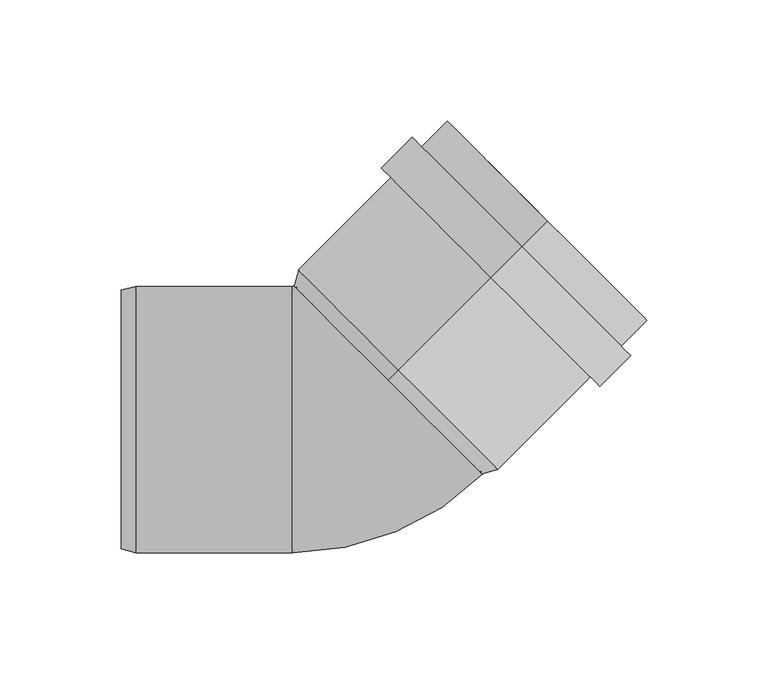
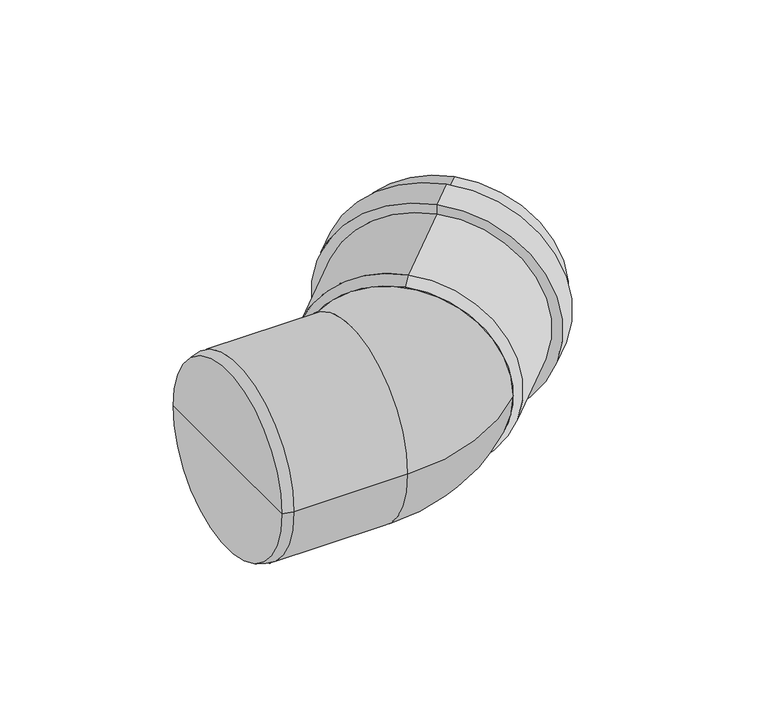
"""IFC4 building model written with IfcOpenShell, lengths in millimetres: pipe fitting geometry, OSMA_KG2000_PPKGB : Koleno 45°."""

from ifc_helpers import new_model, si_unit, point, frame, origin, place, context, project, spatial, polyline, circle_curve, ellipse_curve, trimmed, source, transform, mapped, element, save
from ifc_brep_helpers import plane_surface, cylinder_surface, revolved_surface, advanced_brep


def pipe_fitting_c65eb248(model_context):
    return source(origin(), model_context, "Body", "AdvancedBrep", [
        advanced_brep(
        [(20.5060967, 20.5060967, 55.0), (20.5060967, 20.5060967, -55.0), (82.0243866, 82.0243866, -55.0), (82.0243866, 82.0243866, 55.0), (58.6898628, 58.6898628, 58.4), (58.6898628, 58.6898628, -58.4), (20.5060967, 20.5060967, -58.4), (20.5060967, 20.5060967, 58.4), (58.6898628, 58.6898628, 64.0), (58.6898628, 58.6898628, -64.0), (71.4177849, 71.4177849, 64.0), (71.4177849, 71.4177849, -64.0), (71.4177849, 71.4177849, 58.4), (71.4177849, 71.4177849, -58.4), (82.0243866, 82.0243866, 58.4), (82.0243866, 82.0243866, -58.4), (16.263456, 16.263456, 51.6), (16.263456, 16.263456, -51.6), (16.263456, 16.263456, 55.0), (16.263456, 16.263456, -55.0)],
        [
            (0, 1, circle_curve(frame((20.5060967, 20.5060967, 0.0), z_axis=(-0.7071067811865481, -0.707106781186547, 0.0), x_axis=(0.0, 0.0, -1.0000000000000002)), 55.0)),
            (1, 2),
            (2, 3, circle_curve(frame((82.0243866, 82.0243866, 0.0), z_axis=(0.7071067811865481, 0.707106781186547, 0.0), x_axis=(0.0, 0.0, -1.0000000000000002)), 55.0)),
            (3, 0),
            (1, 0, circle_curve(frame((20.5060967, 20.5060967, 0.0), z_axis=(-0.7071067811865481, -0.707106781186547, 0.0), x_axis=(0.0, 0.0, -1.0000000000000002)), 55.0)),
            (3, 2, circle_curve(frame((82.0243866, 82.0243866, 0.0), z_axis=(0.7071067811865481, 0.707106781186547, 0.0), x_axis=(0.0, 0.0, -1.0000000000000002)), 55.0)),
            (4, 5, circle_curve(frame((58.6898628, 58.6898628, 0.0), z_axis=(-0.7071067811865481, -0.707106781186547, 0.0), x_axis=(0.0, 0.0, -1.0000000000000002)), 58.4)),
            (5, 6),
            (6, 7, circle_curve(frame((20.5060967, 20.5060967, 0.0), z_axis=(0.7071067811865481, 0.707106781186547, 0.0), x_axis=(0.0, 0.0, -1.0000000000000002)), 58.4)),
            (7, 4),
            (5, 4, circle_curve(frame((58.6898628, 58.6898628, 0.0), z_axis=(-0.7071067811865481, -0.707106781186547, 0.0), x_axis=(0.0, 0.0, -1.0000000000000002)), 58.4)),
            (7, 6, circle_curve(frame((20.5060967, 20.5060967, 0.0), z_axis=(0.7071067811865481, 0.707106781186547, 0.0), x_axis=(0.0, 0.0, -1.0000000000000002)), 58.4)),
            (8, 9, circle_curve(frame((58.6898628, 58.6898628, 0.0), z_axis=(-0.7071067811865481, -0.707106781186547, 0.0), x_axis=(0.0, 0.0, -1.0000000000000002)), 64.0)),
            (9, 5),
            (4, 8),
            (9, 8, circle_curve(frame((58.6898628, 58.6898628, 0.0), z_axis=(-0.7071067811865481, -0.707106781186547, 0.0), x_axis=(0.0, 0.0, -1.0000000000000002)), 64.0)),
            (10, 11, circle_curve(frame((71.4177849, 71.4177849, 0.0), z_axis=(-0.7071067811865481, -0.707106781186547, 0.0), x_axis=(0.0, 0.0, -1.0000000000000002)), 64.0)),
            (11, 9),
            (8, 10),
            (11, 10, circle_curve(frame((71.4177849, 71.4177849, 0.0), z_axis=(-0.7071067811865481, -0.707106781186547, 0.0), x_axis=(0.0, 0.0, -1.0000000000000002)), 64.0)),
            (12, 13, circle_curve(frame((71.4177849, 71.4177849, 0.0), z_axis=(-0.7071067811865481, -0.707106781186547, 0.0), x_axis=(0.0, 0.0, -1.0000000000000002)), 58.4)),
            (13, 11),
            (10, 12),
            (13, 12, circle_curve(frame((71.4177849, 71.4177849, 0.0), z_axis=(-0.7071067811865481, -0.707106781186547, 0.0), x_axis=(0.0, 0.0, -1.0000000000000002)), 58.4)),
            (14, 15, circle_curve(frame((82.0243866, 82.0243866, 0.0), z_axis=(-0.7071067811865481, -0.707106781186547, 0.0), x_axis=(0.0, 0.0, -1.0000000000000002)), 58.4)),
            (15, 13),
            (12, 14),
            (15, 14, circle_curve(frame((82.0243866, 82.0243866, 0.0), z_axis=(-0.7071067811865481, -0.707106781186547, 0.0), x_axis=(0.0, 0.0, -1.0000000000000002)), 58.4)),
            (2, 15),
            (14, 3),
            (16, 17, circle_curve(frame((16.263456, 16.263456, 0.0), z_axis=(-0.7071067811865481, -0.707106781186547, 0.0), x_axis=(0.0, 0.0, -1.0000000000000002)), 51.6)),
            (17, 1),
            (0, 16),
            (17, 16, circle_curve(frame((16.263456, 16.263456, 0.0), z_axis=(-0.7071067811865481, -0.707106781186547, 0.0), x_axis=(0.0, 0.0, -1.0000000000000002)), 51.6)),
            (18, 19, circle_curve(frame((16.263456, 16.263456, 0.0), z_axis=(-0.7071067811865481, -0.707106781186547, 0.0), x_axis=(0.0, 0.0, -1.0000000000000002)), 55.0)),
            (19, 17),
            (16, 18),
            (19, 18, circle_curve(frame((16.263456, 16.263456, 0.0), z_axis=(-0.7071067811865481, -0.707106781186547, 0.0), x_axis=(0.0, 0.0, -1.0000000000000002)), 55.0)),
            (6, 19),
            (18, 7),
        ],
        [
            revolved_surface(polyline([(82.02438659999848, 82.02438660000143, -55.000000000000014), (20.506096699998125, 20.50609670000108, -55.000000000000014)]), (1969.6277097, 1969.6277097, 0.0), (0.7071067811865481, 0.707106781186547, 0.0)),
            cylinder_surface(frame((1969.6277097, 1969.6277097, 0.0), z_axis=(0.7071067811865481, 0.707106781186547, 0.0), x_axis=(0.0, 0.0, -1.0000000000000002)), 58.4),
            plane_surface(frame((58.6898628, 58.6898628, 0.0), z_axis=(-0.7071067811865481, -0.707106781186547, 0.0), x_axis=(0.0, 0.0, -1.0))),
            cylinder_surface(frame((1969.6277097, 1969.6277097, 0.0), z_axis=(0.7071067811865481, 0.707106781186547, 0.0), x_axis=(0.0, 0.0, -1.0000000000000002)), 64.0),
            plane_surface(frame((71.4177849, 71.4177849, 0.0), z_axis=(0.7071067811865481, 0.707106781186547, 0.0), x_axis=(0.0, 0.0, -1.0))),
            plane_surface(frame((82.0243866, 82.0243866, 0.0), z_axis=(0.7071067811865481, 0.707106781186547, 0.0), x_axis=(0.0, 0.0, -1.0))),
            revolved_surface(polyline([(20.5060967, 20.5060967, -55.0), (16.263456, 16.263456, -51.6)]), (1969.6277097, 1969.6277097, 0.0), (0.7071067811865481, 0.707106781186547, 0.0)),
            plane_surface(frame((16.263456, 16.263456, 0.0), z_axis=(-0.7071067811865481, -0.707106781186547, 0.0), x_axis=(0.0, 0.0, -1.0))),
            revolved_surface(polyline([(16.263456, 16.263456, -55.0), (20.5060967, 20.5060967, -58.4)]), (1969.6277097, 1969.6277097, 0.0), (0.7071067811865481, 0.707106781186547, 0.0)),
        ],
        [
            (0, [[1, 2, 3, 4]]),
            (0, [[5, -4, 6, -2]]),
            (1, [[7, 8, 9, 10]]),
            (1, [[11, -10, 12, -8]]),
            (2, [[13, 14, -7, 15]]),
            (2, [[16, -15, -11, -14]]),
            (3, [[17, 18, -13, 19]]),
            (3, [[20, -19, -16, -18]]),
            (4, [[21, 22, -17, 23]]),
            (4, [[24, -23, -20, -22]]),
            (1, [[25, 26, -21, 27]]),
            (1, [[28, -27, -24, -26]]),
            (5, [[-3, 29, -25, 30]]),
            (5, [[-6, -30, -28, -29]]),
            (6, [[31, 32, -1, 33]]),
            (6, [[34, -33, -5, -32]]),
            (7, [[35, 36, -31, 37]]),
            (7, [[38, -37, -34, -36]]),
            (8, [[-9, 39, -35, 40]]),
            (8, [[-12, -40, -38, -39]]),
        ],
    ),
        advanced_brep(
        [(-22.3424061, 55.4393398, 0.0), (-23.4030663, 55.0, 0.0), (-23.4030663, -55.0, 0.0), (55.4393398, -22.3424061, 0.0), (16.5484669, 16.5484669, 55.0), (16.5484669, 16.5484669, -55.0), (-94.0, 0.0, 0.0), (-94.0, 53.3923048, 0.0), (-94.0, -53.3923048, 0.0), (-88.0, 55.0, 0.0), (-88.0, -55.0, 0.0), (59.3969696, -18.3847763, 0.0), (-18.3847763, 59.3969696, 0.0)],
        [
            (0, 1, circle_curve(frame((-23.4030663, 56.5, 0.0), z_axis=(0.0, 0.0, -1.0), x_axis=(0.0, -1.0, 0.0)), 1.5)),
            (1, 2, circle_curve(frame((-23.4030663, 0.0, 0.0), z_axis=(1.0, 0.0, 0.0), x_axis=(0.0, 1.0, 0.0)), 55.0)),
            (2, 3, circle_curve(frame((-23.4030663, 56.5, 0.0), z_axis=(0.0, 0.0, 1.0), x_axis=(0.0, -1.0, 0.0)), 111.5)),
            (3, 4, circle_curve(frame((16.5484669, 16.5484669, 0.0), z_axis=(-0.7071067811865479, -0.7071067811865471, 0.0), x_axis=(-0.7071067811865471, 0.7071067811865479, 0.0)), 55.0)),
            (4, 0, circle_curve(frame((16.5484669, 16.5484669, 0.0), z_axis=(-0.7071067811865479, -0.7071067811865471, 0.0), x_axis=(-0.7071067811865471, 0.7071067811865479, 0.0)), 55.0)),
            (0, 5, circle_curve(frame((16.5484669, 16.5484669, 0.0), z_axis=(-0.7071067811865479, -0.7071067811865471, 0.0), x_axis=(-0.7071067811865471, 0.7071067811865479, 0.0)), 55.0)),
            (5, 3, circle_curve(frame((16.5484669, 16.5484669, 0.0), z_axis=(-0.7071067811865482, -0.7071067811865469, 0.0), x_axis=(-0.7071067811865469, 0.7071067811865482, 0.0)), 55.0)),
            (2, 1, circle_curve(frame((-23.4030663, 0.0, 0.0), z_axis=(1.0, 0.0, 0.0), x_axis=(0.0, 1.0, 0.0)), 55.0)),
            (6, 7),
            (7, 8, circle_curve(frame((-94.0, 0.0, 0.0), z_axis=(-1.0, 0.0, 0.0), x_axis=(0.0, 1.0, 0.0)), 53.3923048)),
            (8, 6),
            (8, 7, circle_curve(frame((-94.0, 0.0, 0.0), z_axis=(-1.0, 0.0, 0.0), x_axis=(0.0, 1.0, 0.0)), 53.3923048)),
            (7, 9),
            (9, 10, circle_curve(frame((-88.0, 0.0, 0.0), z_axis=(-1.0, 0.0, 0.0), x_axis=(0.0, 1.0, 0.0)), 55.0)),
            (10, 8),
            (10, 9, circle_curve(frame((-88.0, 0.0, 0.0), z_axis=(-1.0, 0.0, 0.0), x_axis=(0.0, 1.0, 0.0)), 55.0)),
            (9, 1),
            (2, 10),
            (11, 12, circle_curve(frame((20.5060967, 20.5060967, 0.0), z_axis=(0.7071067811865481, 0.707106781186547, 0.0), x_axis=(-0.707106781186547, 0.7071067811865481, 0.0)), 55.0)),
            (12, 11, circle_curve(frame((20.5060967, 20.5060967, 0.0), z_axis=(0.7071067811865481, 0.707106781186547, 0.0), x_axis=(-0.707106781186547, 0.7071067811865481, 0.0)), 55.0)),
            (12, 0),
            (3, 11),
        ],
        [
            revolved_surface(trimmed(ellipse_curve(frame((-23.4030663, 0.0, 0.0), z_axis=(-1.0, 0.0, 0.0), x_axis=(0.0, 1.0, 0.0)), 55.0, 55.0), [point((-23.4030663, -55.0, 0.0))], [point((-23.4030663, 55.0, 0.0))], True, "CARTESIAN"), (-23.4030663, 56.5, 0.0), (0.0, 0.0, 1.0)),
            revolved_surface(trimmed(ellipse_curve(frame((-23.4030663, 0.0, 0.0), z_axis=(-1.0, 0.0, 0.0), x_axis=(0.0, 1.0, 0.0)), 55.0, 55.0), [point((-23.4030663, 55.0, 0.0))], [point((-23.4030663, -55.0, 0.0))], True, "CARTESIAN"), (-23.4030663, 56.5, 0.0), (0.0, 0.0, 1.0)),
            plane_surface(frame((-94.0, 0.0, 0.0), z_axis=(-1.0, 0.0, 0.0), x_axis=(0.0, 1.0, 0.0))),
            revolved_surface(polyline([(-88.0, 55.0, 0.0), (-94.0, 53.3923048, 0.0)]), (331.0587718, 0.0, 0.0), (-1.0, 0.0, 0.0)),
            cylinder_surface(frame((331.0587718, 0.0, 0.0), z_axis=(-1.0, 0.0, 0.0), x_axis=(0.0, 1.0, 0.0)), 55.0),
            plane_surface(frame((20.5060967, 20.5060967, 0.0), z_axis=(0.7071067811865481, 0.707106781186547, 0.0), x_axis=(0.0, 0.0, 1.0))),
            cylinder_surface(frame((16.5484669, 16.5484669, 0.0), z_axis=(-0.7071067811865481, -0.707106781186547, 0.0), x_axis=(-0.707106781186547, 0.7071067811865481, 0.0)), 55.0),
        ],
        [
            (0, [[1, 2, 3, 4, 5]]),
            (1, [[-1, 6, 7, -3, 8]]),
            (2, [[9, 10, 11]]),
            (2, [[-9, -11, 12]]),
            (3, [[-10, 13, 14, 15]]),
            (3, [[-12, -15, 16, -13]]),
            (4, [[-14, 17, -8, 18]]),
            (4, [[-16, -18, -2, -17]]),
            (5, [[19, 20]]),
            (6, [[-20, 21, -5, -4, 22]]),
            (6, [[-19, -22, -7, -6, -21]]),
        ],
    ),
    ])


if __name__ == "__main__":
    model = new_model("IFC4")
    model_context = context("Model", 3, world=origin())
    ifc_project = project(units=[si_unit("LENGTHUNIT", "METRE", prefix="MILLI")], contexts=[model_context])
    site = spatial("IfcSite", under=ifc_project)
    building = spatial("IfcBuilding", under=site)
    placement = place(None, origin())
    pipe_fitting_shape = pipe_fitting_c65eb248(model_context)
    element("IfcPipeFitting", 1, ObjectType="OSMA_KG2000_PPKGB : Koleno 45°", at=placement, inside=building, context=model_context, shape_type="MappedRepresentation", body=[
        mapped(pipe_fitting_shape, transform((0.0, 0.0, 0.0), x_axis=(1.0, 0.0, 0.0), y_axis=(0.0, 1.0, 0.0), z_axis=(0.0, 0.0, 1.0))),
    ])
    save(model, "model.ifc")
